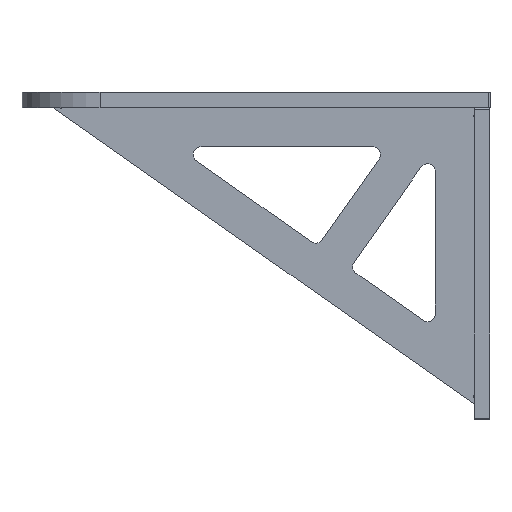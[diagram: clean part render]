
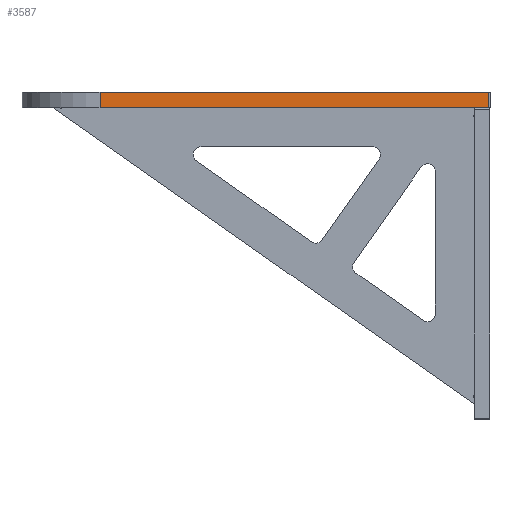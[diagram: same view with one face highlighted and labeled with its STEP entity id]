
A CAD part, left-side view. The second image highlights one B-rep face of the part: STEP entity #3587.
In plain terms, the highlighted planar face has unit normal (-1, 0, 0).
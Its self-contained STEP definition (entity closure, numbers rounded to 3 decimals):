
#82 = VERTEX_POINT ( 'NONE', #4739 ) ;
#229 = CARTESIAN_POINT ( 'NONE',  ( -130., -149., 0. ) ) ;
#574 = AXIS2_PLACEMENT_3D ( 'NONE', #4261, #4670, #831 ) ;
#621 = LINE ( 'NONE', #1090, #1729 ) ;
#665 = LINE ( 'NONE', #4905, #1485 ) ;
#831 = DIRECTION ( 'NONE',  ( 0., 1., 0. ) ) ;
#1090 = CARTESIAN_POINT ( 'NONE',  ( -130., -149., 10. ) ) ;
#1357 = EDGE_CURVE ( 'NONE', #1592, #4653, #4377, .T. ) ;
#1485 = VECTOR ( 'NONE', #3210, 1000. ) ;
#1592 = VERTEX_POINT ( 'NONE', #2792 ) ;
#1691 = PLANE ( 'NONE',  #574 ) ;
#1729 = VECTOR ( 'NONE', #2317, 1000. ) ;
#1816 = DIRECTION ( 'NONE',  ( 0., -1., 0. ) ) ;
#2317 = DIRECTION ( 'NONE',  ( 0., 0., 1. ) ) ;
#2336 = ORIENTED_EDGE ( 'NONE', *, *, #3403, .T. ) ;
#2655 = VECTOR ( 'NONE', #1816, 1000. ) ;
#2735 = CARTESIAN_POINT ( 'NONE',  ( -130., -149., 10. ) ) ;
#2792 = CARTESIAN_POINT ( 'NONE',  ( -130., 100., 10. ) ) ;
#3041 = CARTESIAN_POINT ( 'NONE',  ( -130., 150., 10. ) ) ;
#3210 = DIRECTION ( 'NONE',  ( 0., -1., 0. ) ) ;
#3357 = LINE ( 'NONE', #3828, #4226 ) ;
#3403 = EDGE_CURVE ( 'NONE', #4616, #4653, #621, .T. ) ;
#3507 = ORIENTED_EDGE ( 'NONE', *, *, #3873, .T. ) ;
#3587 = ADVANCED_FACE ( 'NONE', ( #5059 ), #1691, .F. ) ;
#3692 = EDGE_LOOP ( 'NONE', ( #4277, #2336, #5180, #3507 ) ) ;
#3828 = CARTESIAN_POINT ( 'NONE',  ( -130., 100., 10. ) ) ;
#3873 = EDGE_CURVE ( 'NONE', #1592, #82, #3357, .T. ) ;
#4226 = VECTOR ( 'NONE', #4246, 1000. ) ;
#4246 = DIRECTION ( 'NONE',  ( 0., 0., -1. ) ) ;
#4261 = CARTESIAN_POINT ( 'NONE',  ( -130., 150., 10. ) ) ;
#4277 = ORIENTED_EDGE ( 'NONE', *, *, #5048, .T. ) ;
#4377 = LINE ( 'NONE', #3041, #2655 ) ;
#4616 = VERTEX_POINT ( 'NONE', #229 ) ;
#4653 = VERTEX_POINT ( 'NONE', #2735 ) ;
#4670 = DIRECTION ( 'NONE',  ( 1., 0., 0. ) ) ;
#4739 = CARTESIAN_POINT ( 'NONE',  ( -130., 100., 0. ) ) ;
#4905 = CARTESIAN_POINT ( 'NONE',  ( -130., 150., 0. ) ) ;
#5048 = EDGE_CURVE ( 'NONE', #82, #4616, #665, .T. ) ;
#5059 = FACE_OUTER_BOUND ( 'NONE', #3692, .T. ) ;
#5180 = ORIENTED_EDGE ( 'NONE', *, *, #1357, .F. ) ;
